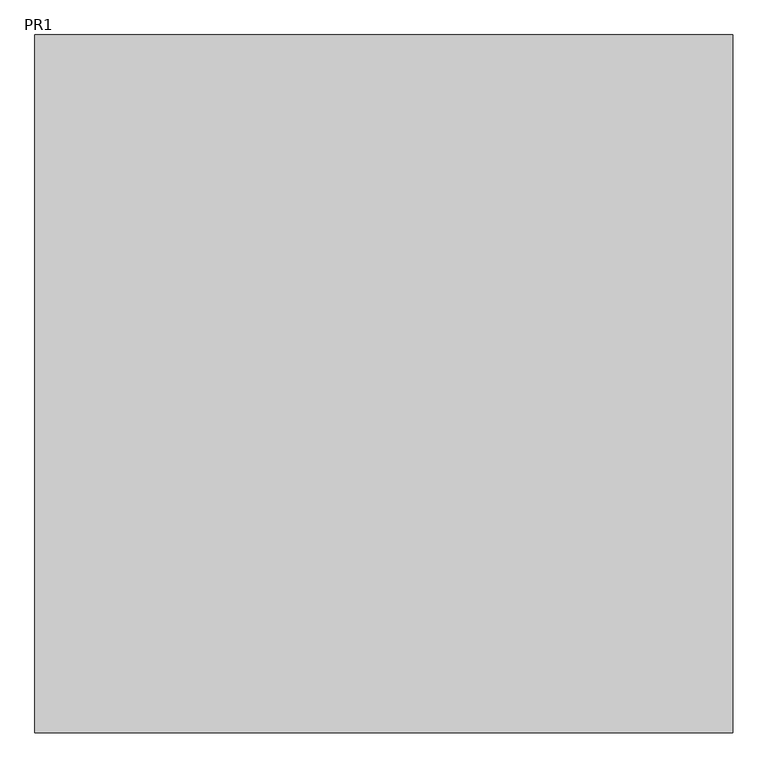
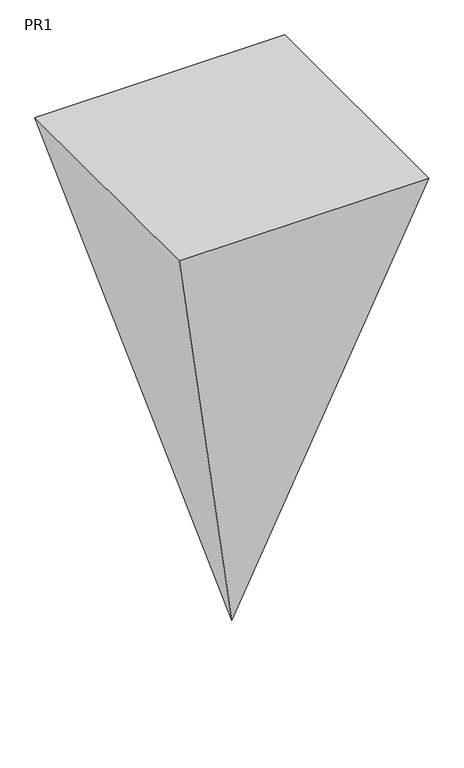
"""IFC4 building model written with IfcOpenShell, lengths in millimetres: proxy geometry, Punt_de_Referència : PR1."""

from ifc_helpers import new_model, si_unit, origin, place, context, project, spatial, faceted_brep, source, transform, mapped, element, save


def pr1_8635f188(model_context):
    return source(origin(), model_context, "Body", "Brep", [
        faceted_brep([(-1000.0, 1000.0, 4000.0), (-1000.0, -1000.0, 4000.0), (1000.0, -1000.0, 4000.0), (1000.0, 1000.0, 4000.0), (0.0, 0.0, 0.0)], [[[0, 1, 2, 3]], [[1, 0, 4]], [[3, 2, 4]], [[0, 3, 4]], [[2, 1, 4]]]),
    ])


if __name__ == "__main__":
    model = new_model("IFC4")
    model_context = context("Model", 3, world=origin())
    ifc_project = project(units=[si_unit("LENGTHUNIT", "METRE", prefix="MILLI")], contexts=[model_context])
    site = spatial("IfcSite", under=ifc_project)
    building = spatial("IfcBuilding", under=site)
    placement = place(None, origin())
    pr1_shape = pr1_8635f188(model_context)
    element("IfcBuildingElementProxy", 1, Name="Punt_de_Referència : PR1", ObjectType="Punt_de_Referència : PR1", at=placement, inside=building, context=model_context, shape_type="MappedRepresentation", body=[
        mapped(pr1_shape, transform((0.0, 0.0, 0.0), x_axis=(1.0, 0.0, 0.0), y_axis=(0.0, 1.0, 0.0), z_axis=(0.0, 0.0, 1.0))),
    ])
    save(model, "model.ifc")
